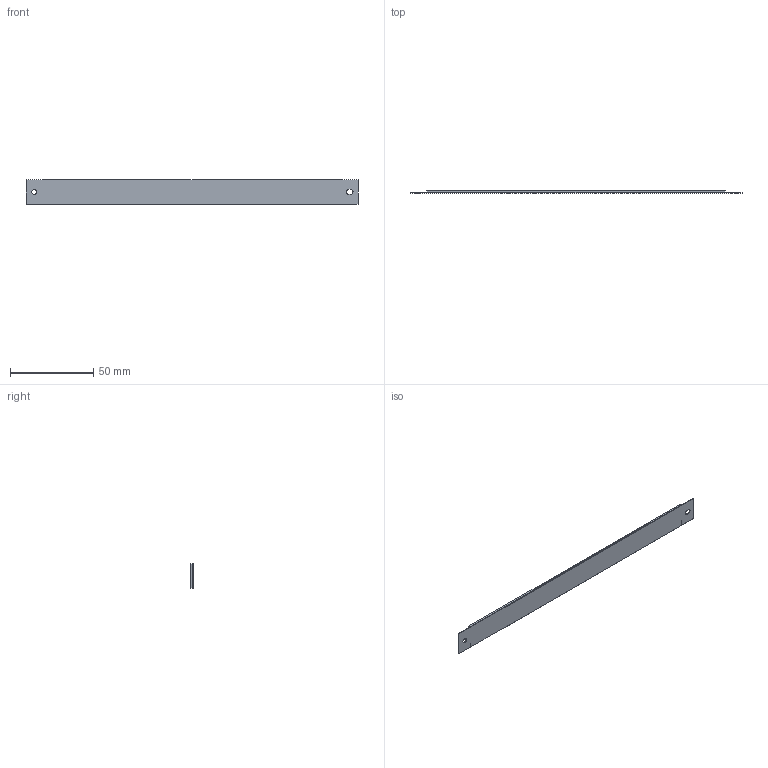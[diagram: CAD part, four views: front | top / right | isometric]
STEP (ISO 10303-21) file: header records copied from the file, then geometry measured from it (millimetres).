
FILE_DESCRIPTION (( 'STEP AP214' ), '1' );
FILE_NAME ('DS19.STEP', '2024-02-01T13:58:08', ( '' ), ( '' ), 'SwSTEP 2.0', 'SolidWorks 2022', '' );
FILE_SCHEMA (( 'AUTOMOTIVE_DESIGN' ));
Length unit declared in the file: millimetre
Products named in the file (1): DS19
Bounding box: 200 x 1.43 x 14.98 mm (x, y, z)
Volume: 3958.7 mm3; surface area: 6522 mm2
Topology: 1 solids, 1 shells, 282 faces, 748 edges, 498 vertices
Faces by surface type: plane 211, bspline 52, cylinder 19
Entity records: 11827 total; most frequent: CARTESIAN_POINT 4633, ORIENTED_EDGE 1496, DIRECTION 1144, EDGE_CURVE 748, VECTOR 606, LINE 606, VERTEX_POINT 498, EDGE_LOOP 316
